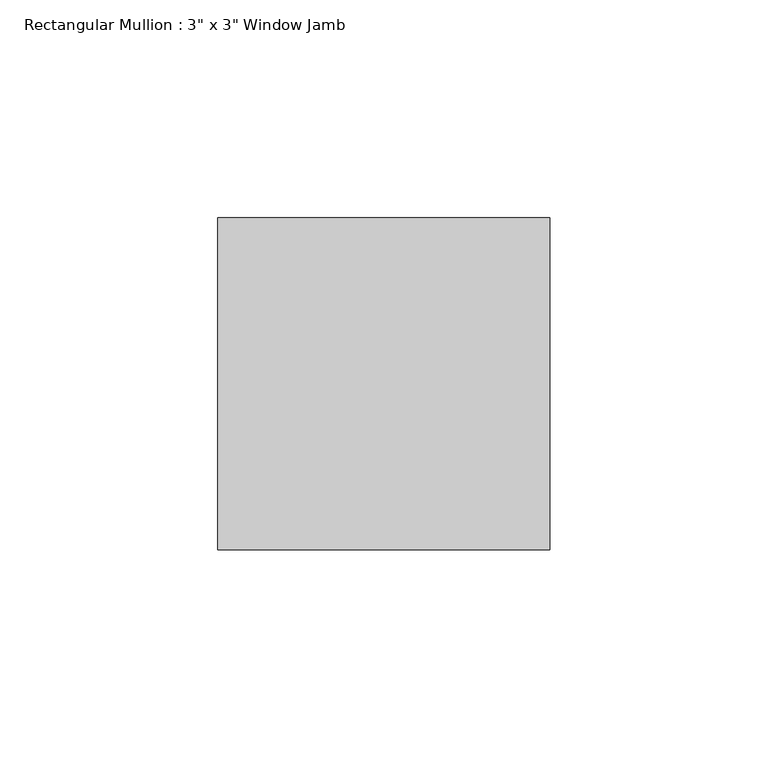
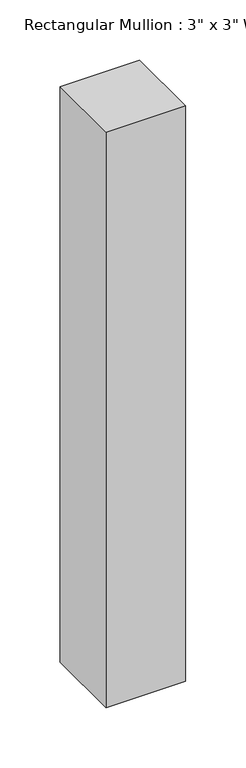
"""IFC4 building model written with IfcOpenShell, lengths in millimetres: member geometry."""

from ifc_helpers import new_model, si_unit, frame, origin, place, context, project, spatial, polyline, outline, extrude, source, transform, mapped, element, save


def member_ae2a2eb1(model_context):
    return source(origin(), model_context, "Body", "SweptSolid", [
        extrude(outline(polyline([(0.0, 50.8), (0.0, -25.4), (-76.2, -25.4), (-76.2, 50.8), (0.0, 50.8)])), frame((0.0, 0.0, -582.1971865), z_axis=(0.0, 0.0, 1.0), x_axis=(1.0, 0.0, 0.0)), (0.0, 0.0, 1.0), 582.1971865),
    ])


if __name__ == "__main__":
    model = new_model("IFC4")
    model_context = context("Model", 3, world=origin())
    ifc_project = project(units=[si_unit("LENGTHUNIT", "METRE", prefix="MILLI")], contexts=[model_context])
    site = spatial("IfcSite", under=ifc_project)
    building = spatial("IfcBuilding", under=site)
    placement = place(None, origin())
    member_shape = member_ae2a2eb1(model_context)
    element("IfcMember", 1, ObjectType="Rectangular Mullion : 3\" x 3\" Window Jamb", at=placement, inside=building, context=model_context, shape_type="MappedRepresentation", body=[
        mapped(member_shape, transform((0.0, 0.0, 0.0), x_axis=(1.0, 0.0, 0.0), y_axis=(0.0, 1.0, 0.0), z_axis=(0.0, 0.0, 1.0))),
    ])
    save(model, "model.ifc")
